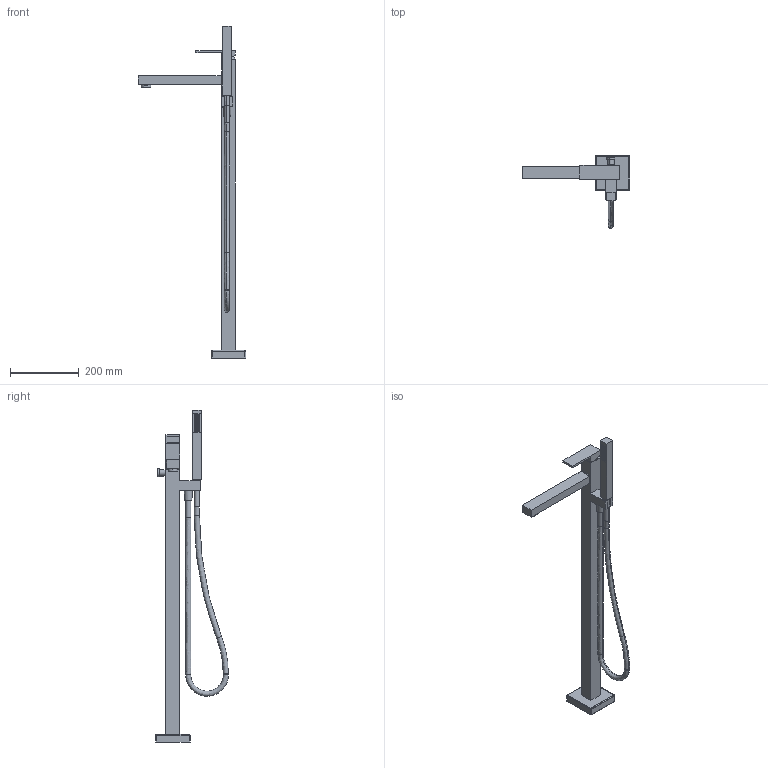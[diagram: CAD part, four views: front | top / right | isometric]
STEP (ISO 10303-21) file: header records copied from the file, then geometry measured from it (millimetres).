
FILE_DESCRIPTION(('STEP AP203'),'2;1');
FILE_NAME('KRUBBVAS2-K.stp','2016-02-24T16:22:35',(''),(''),'2014.1.117','THINKDESIGN','');
FILE_SCHEMA(('CONFIG_CONTROL_DESIGN'));
Length unit declared in the file: millimetre
Bounding box: 313 x 211.5 x 966 mm (x, y, z)
Volume: 2100010.5 mm3; surface area: 306349.3 mm2
Topology: 1 solids, 1 shells, 332 faces, 795 edges, 508 vertices
Faces by surface type: plane 264, cylinder 34, bspline 34
Entity records: 12795 total; most frequent: CARTESIAN_POINT 5165, ORIENTED_EDGE 1574, DIRECTION 1422, EDGE_CURVE 787, VECTOR 658, LINE 658, VERTEX_POINT 508, EDGE_LOOP 385
